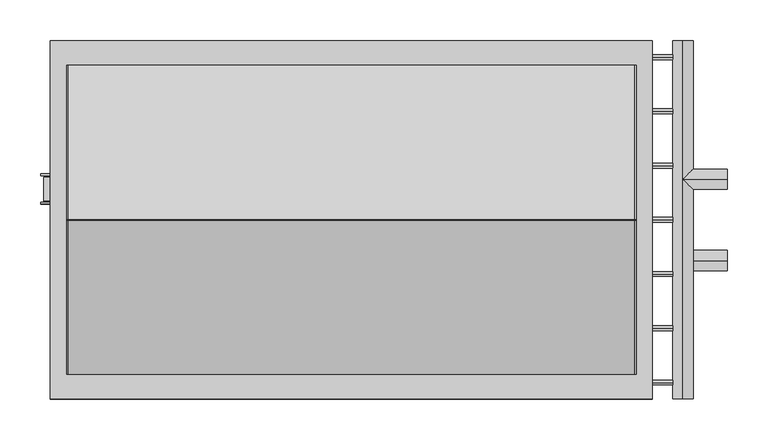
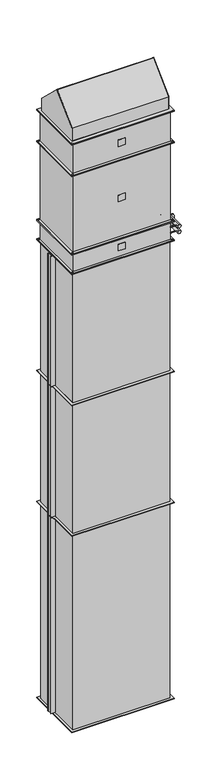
"""IFC4 building model written with IfcOpenShell, lengths in millimetres: proxy geometry, KORF_Завеса_ВодянойНагрев_PWZ_C : PWZ-C 70-40 W2."""

from ifc_helpers import new_model, si_unit, point, frame, frame_2d, origin, origin_with_axes, place, context, project, spatial, polyline, circle_curve, ellipse_curve, trimmed, segment, composite_curve, outline, extrude, source, transform, mapped, element, save
from ifc_brep_helpers import plane_surface, cylinder_surface, advanced_brep


def mechanical_equipment_6797398d(model_context):
    return source(origin(), model_context, "Body", "SolidModel", [
        extrude(outline(polyline([(25.0, -205.0), (-25.0, -205.0), (-25.0, -203.0), (25.0, -203.0), (25.0, -205.0)])), frame((0.0, 0.0, 3550.0), z_axis=(0.0, 0.0, 1.0), x_axis=(1.0, 0.0, 0.0)), (0.0, 0.0, 1.0), 50.0),
        extrude(outline(polyline([(370.0, -220.0), (-370.0, -220.0), (-370.0, 220.0), (370.0, 220.0), (370.0, -220.0)]), holes=[polyline([(350.0, -200.0), (350.0, 200.0), (-350.0, 200.0), (-350.0, -200.0), (350.0, -200.0)]), composite_curve([segment(trimmed(circle_curve(frame_2d((-360.0, -210.0)), 4.5), [point((-355.5, -210.0))], [point((-364.5, -210.0))], True, "CARTESIAN"), True, "CONTINUOUS"), segment(trimmed(circle_curve(frame_2d((-360.0, -210.0)), 4.5), [point((-364.5, -210.0))], [point((-355.5, -210.0))], True, "CARTESIAN"), True, "CONTINUOUS")], self_intersect=False), composite_curve([segment(trimmed(circle_curve(frame_2d((360.0, -210.0)), 4.5), [point((364.5, -210.0))], [point((355.5, -210.0))], True, "CARTESIAN"), True, "CONTINUOUS"), segment(trimmed(circle_curve(frame_2d((360.0, -210.0)), 4.5), [point((355.5, -210.0))], [point((364.5, -210.0))], True, "CARTESIAN"), True, "CONTINUOUS")], self_intersect=False), composite_curve([segment(trimmed(circle_curve(frame_2d((360.0, 210.0)), 4.5), [point((364.5, 210.0))], [point((355.5, 210.0))], True, "CARTESIAN"), True, "CONTINUOUS"), segment(trimmed(circle_curve(frame_2d((360.0, 210.0)), 4.5), [point((355.5, 210.0))], [point((364.5, 210.0))], True, "CARTESIAN"), True, "CONTINUOUS")], self_intersect=False), composite_curve([segment(trimmed(circle_curve(frame_2d((-360.0, 210.0)), 4.5), [point((-355.5, 210.0))], [point((-364.5, 210.0))], True, "CARTESIAN"), True, "CONTINUOUS"), segment(trimmed(circle_curve(frame_2d((-360.0, 210.0)), 4.5), [point((-364.5, 210.0))], [point((-355.5, 210.0))], True, "CARTESIAN"), True, "CONTINUOUS")], self_intersect=False)]), frame((0.0, 0.0, 3645.0), z_axis=(0.0, 0.0, 1.0), x_axis=(1.0, 0.0, 0.0)), (0.0, 0.0, 1.0), 5.0),
        extrude(outline(polyline([(370.0, -220.0), (-370.0, -220.0), (-370.0, 220.0), (370.0, 220.0), (370.0, -220.0)]), holes=[polyline([(350.0, -200.0), (350.0, 200.0), (-350.0, 200.0), (-350.0, -200.0), (350.0, -200.0)]), composite_curve([segment(trimmed(circle_curve(frame_2d((-360.0, -210.0)), 4.5), [point((-355.5, -210.0))], [point((-364.5, -210.0))], True, "CARTESIAN"), True, "CONTINUOUS"), segment(trimmed(circle_curve(frame_2d((-360.0, -210.0)), 4.5), [point((-364.5, -210.0))], [point((-355.5, -210.0))], True, "CARTESIAN"), True, "CONTINUOUS")], self_intersect=False), composite_curve([segment(trimmed(circle_curve(frame_2d((360.0, -210.0)), 4.5), [point((364.5, -210.0))], [point((355.5, -210.0))], True, "CARTESIAN"), True, "CONTINUOUS"), segment(trimmed(circle_curve(frame_2d((360.0, -210.0)), 4.5), [point((355.5, -210.0))], [point((364.5, -210.0))], True, "CARTESIAN"), True, "CONTINUOUS")], self_intersect=False), composite_curve([segment(trimmed(circle_curve(frame_2d((360.0, 210.0)), 4.5), [point((364.5, 210.0))], [point((355.5, 210.0))], True, "CARTESIAN"), True, "CONTINUOUS"), segment(trimmed(circle_curve(frame_2d((360.0, 210.0)), 4.5), [point((355.5, 210.0))], [point((364.5, 210.0))], True, "CARTESIAN"), True, "CONTINUOUS")], self_intersect=False), composite_curve([segment(trimmed(circle_curve(frame_2d((-360.0, 210.0)), 4.5), [point((-355.5, 210.0))], [point((-364.5, 210.0))], True, "CARTESIAN"), True, "CONTINUOUS"), segment(trimmed(circle_curve(frame_2d((-360.0, 210.0)), 4.5), [point((-364.5, 210.0))], [point((-355.5, 210.0))], True, "CARTESIAN"), True, "CONTINUOUS")], self_intersect=False)]), frame((0.0, 0.0, 3500.0), z_axis=(0.0, 0.0, 1.0), x_axis=(1.0, 0.0, 0.0)), (0.0, 0.0, 1.0), 5.0),
        extrude(outline(polyline([(353.0, -203.0), (-353.0, -203.0), (-353.0, 203.0), (353.0, 203.0), (353.0, -203.0)])), frame((0.0, 0.0, 3505.0), z_axis=(0.0, 0.0, 1.0), x_axis=(1.0, 0.0, 0.0)), (0.0, 0.0, 1.0), 140.0),
        advanced_brep(
        [(462.0, -50.0, 3541.0), (462.0, -50.0, 3566.0), (407.5, -50.0, 3541.0), (407.5, -50.0, 3566.0), (407.5, -220.0, 3541.0), (407.5, -220.0, 3566.0), (407.5, 220.0, 3541.0), (407.5, 220.0, 3566.0)],
        [
            (0, 1, circle_curve(frame((462.0, -50.0, 3553.5), z_axis=(1.0, 0.0, 0.0), x_axis=(0.0, 0.0, 1.0000000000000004)), 12.5)),
            (1, 0, circle_curve(frame((462.0, -50.0, 3553.5), z_axis=(1.0, 0.0, 0.0), x_axis=(0.0, 0.0, 1.0000000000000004)), 12.5)),
            (0, 2),
            (2, 3, ellipse_curve(frame((407.5, -50.0, 3553.5), z_axis=(0.7071067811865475, -0.7071067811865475, 0.0), x_axis=(0.7071067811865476, 0.7071067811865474, 0.0)), 17.6776695, 12.5)),
            (3, 1),
            (3, 2, ellipse_curve(frame((407.5, -50.0, 3553.5), z_axis=(0.7071067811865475, 0.7071067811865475, 0.0), x_axis=(0.7071067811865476, -0.7071067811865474, 0.0)), 17.6776695, 12.5)),
            (4, 5, circle_curve(frame((407.5, -220.0, 3553.5), z_axis=(0.0, -1.0, 0.0), x_axis=(0.0, 0.0, 1.0000000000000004)), 12.5)),
            (5, 4, circle_curve(frame((407.5, -220.0, 3553.5), z_axis=(0.0, -1.0, 0.0), x_axis=(0.0, 0.0, 1.0000000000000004)), 12.5)),
            (6, 7, circle_curve(frame((407.5, 220.0, 3553.5), z_axis=(0.0, 1.0, 0.0), x_axis=(0.0, 0.0, 1.0000000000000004)), 12.5)),
            (7, 6, circle_curve(frame((407.5, 220.0, 3553.5), z_axis=(0.0, 1.0, 0.0), x_axis=(0.0, 0.0, 1.0000000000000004)), 12.5)),
            (4, 2),
            (3, 5),
            (7, 3),
            (2, 6),
        ],
        [
            plane_surface(frame((462.0, -50.0, 3566.0), z_axis=(1.0, 0.0, 0.0), x_axis=(0.0, -1.0, 0.0))),
            cylinder_surface(frame((407.5, -50.0, 3553.5), z_axis=(1.0000000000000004, 0.0, 0.0), x_axis=(0.0, 0.0, 1.0000000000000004)), 12.5),
            plane_surface(frame((407.5, -220.0, 3566.0), z_axis=(0.0, -1.0, 0.0), x_axis=(-1.0, 0.0, 0.0))),
            plane_surface(frame((407.5, 220.0, 3566.0), z_axis=(0.0, 1.0, 0.0), x_axis=(1.0, 0.0, 0.0))),
            cylinder_surface(frame((407.5, 220.0, 3553.5), z_axis=(0.0, -1.0, 0.0), x_axis=(0.0, 0.0, 1.0000000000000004)), 12.5),
        ],
        [
            (0, [[1, 2]]),
            (1, [[-1, 3, 4, 5]]),
            (1, [[-2, -5, 6, -3]]),
            (2, [[7, 8]]),
            (3, [[9, 10]]),
            (4, [[-7, 11, -6, 12]]),
            (4, [[-10, 13, -4, 14]]),
            (4, [[-8, -12, -13, -9, -14, -11]]),
        ],
    ),
        advanced_brep(
        [(462.0, 50.0, 3584.0), (462.0, 50.0, 3609.0), (407.5, 50.0, 3584.0), (407.5, 50.0, 3609.0), (407.5, -220.0, 3584.0), (407.5, -220.0, 3609.0), (407.5, 220.0, 3584.0), (407.5, 220.0, 3609.0)],
        [
            (0, 1, circle_curve(frame((462.0, 50.0, 3596.5), z_axis=(1.0, 0.0, 0.0), x_axis=(0.0, 0.0, 1.0000000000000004)), 12.5)),
            (1, 0, circle_curve(frame((462.0, 50.0, 3596.5), z_axis=(1.0, 0.0, 0.0), x_axis=(0.0, 0.0, 1.0000000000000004)), 12.5)),
            (0, 2),
            (2, 3, ellipse_curve(frame((407.5, 50.0, 3596.5), z_axis=(0.7071067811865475, -0.7071067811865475, 0.0), x_axis=(0.7071067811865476, 0.7071067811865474, 0.0)), 17.6776695, 12.5)),
            (3, 1),
            (3, 2, ellipse_curve(frame((407.5, 50.0, 3596.5), z_axis=(0.7071067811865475, 0.7071067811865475, 0.0), x_axis=(0.7071067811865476, -0.7071067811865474, 0.0)), 17.6776695, 12.5)),
            (4, 5, circle_curve(frame((407.5, -220.0, 3596.5), z_axis=(0.0, -1.0, 0.0), x_axis=(0.0, 0.0, 1.0000000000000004)), 12.5)),
            (5, 4, circle_curve(frame((407.5, -220.0, 3596.5), z_axis=(0.0, -1.0, 0.0), x_axis=(0.0, 0.0, 1.0000000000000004)), 12.5)),
            (6, 7, circle_curve(frame((407.5, 220.0, 3596.5), z_axis=(0.0, 1.0, 0.0), x_axis=(0.0, 0.0, 1.0000000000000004)), 12.5)),
            (7, 6, circle_curve(frame((407.5, 220.0, 3596.5), z_axis=(0.0, 1.0, 0.0), x_axis=(0.0, 0.0, 1.0000000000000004)), 12.5)),
            (4, 2),
            (3, 5),
            (7, 3),
            (2, 6),
        ],
        [
            plane_surface(frame((462.0, -50.0, 3566.0), z_axis=(1.0, 0.0, 0.0), x_axis=(0.0, -1.0, 0.0))),
            cylinder_surface(frame((0.0, 50.0, 3596.5), z_axis=(1.0000000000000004, 0.0, 0.0), x_axis=(0.0, 0.0, 1.0000000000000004)), 12.5),
            plane_surface(frame((407.5, -220.0, 3566.0), z_axis=(0.0, -1.0, 0.0), x_axis=(-1.0, 0.0, 0.0))),
            plane_surface(frame((407.5, 220.0, 3566.0), z_axis=(0.0, 1.0, 0.0), x_axis=(1.0, 0.0, 0.0))),
            cylinder_surface(frame((407.5, 0.0, 3596.5), z_axis=(0.0, -1.0, 0.0), x_axis=(0.0, 0.0, 1.0000000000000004)), 12.5),
        ],
        [
            (0, [[1, 2]]),
            (1, [[-1, 3, 4, 5]]),
            (1, [[-2, -5, 6, -3]]),
            (2, [[7, 8]]),
            (3, [[9, 10]]),
            (4, [[-7, 11, -6, 12]]),
            (4, [[-10, 13, -4, 14]]),
            (4, [[-8, -12, -13, -9, -14, -11]]),
        ],
    ),
        extrude(outline(composite_curve([segment(trimmed(circle_curve(frame_2d((-200.0, 3553.5)), 3.0), [point((-200.0, 3550.5))], [point((-200.0, 3556.5))], False, "CARTESIAN"), True, "CONTINUOUS"), segment(trimmed(circle_curve(frame_2d((-200.0, 3553.5)), 3.0), [point((-200.0, 3556.5))], [point((-200.0, 3550.5))], False, "CARTESIAN"), True, "CONTINUOUS")], self_intersect=False)), frame((353.0, 0.0, 0.0), z_axis=(1.0, 0.0, 0.0), x_axis=(0.0, 1.0, 0.0)), (0.0, 0.0, 1.0), 54.5),
        extrude(outline(composite_curve([segment(trimmed(circle_curve(frame_2d((-133.3333333, 3553.5)), 3.0), [point((-133.3333333, 3550.5))], [point((-133.3333333, 3556.5))], False, "CARTESIAN"), True, "CONTINUOUS"), segment(trimmed(circle_curve(frame_2d((-133.3333333, 3553.5)), 3.0), [point((-133.3333333, 3556.5))], [point((-133.3333333, 3550.5))], False, "CARTESIAN"), True, "CONTINUOUS")], self_intersect=False)), frame((353.0, 0.0, 0.0), z_axis=(1.0, 0.0, 0.0), x_axis=(0.0, 1.0, 0.0)), (0.0, 0.0, 1.0), 54.5),
        extrude(outline(composite_curve([segment(trimmed(circle_curve(frame_2d((-66.6666667, 3553.5)), 3.0), [point((-66.6666667, 3550.5))], [point((-66.6666667, 3556.5))], False, "CARTESIAN"), True, "CONTINUOUS"), segment(trimmed(circle_curve(frame_2d((-66.6666667, 3553.5)), 3.0), [point((-66.6666667, 3556.5))], [point((-66.6666667, 3550.5))], False, "CARTESIAN"), True, "CONTINUOUS")], self_intersect=False)), frame((353.0, 0.0, 0.0), z_axis=(1.0, 0.0, 0.0), x_axis=(0.0, 1.0, 0.0)), (0.0, 0.0, 1.0), 54.5),
        extrude(outline(composite_curve([segment(trimmed(circle_curve(frame_2d((0.0, 3553.5)), 3.0), [point((0.0, 3550.5))], [point((0.0, 3556.5))], False, "CARTESIAN"), True, "CONTINUOUS"), segment(trimmed(circle_curve(frame_2d((0.0, 3553.5)), 3.0), [point((0.0, 3556.5))], [point((0.0, 3550.5))], False, "CARTESIAN"), True, "CONTINUOUS")], self_intersect=False)), frame((353.0, 0.0, 0.0), z_axis=(1.0, 0.0, 0.0), x_axis=(0.0, 1.0, 0.0)), (0.0, 0.0, 1.0), 54.5),
        extrude(outline(composite_curve([segment(trimmed(circle_curve(frame_2d((66.6666667, 3553.5)), 3.0), [point((66.6666667, 3550.5))], [point((66.6666667, 3556.5))], False, "CARTESIAN"), True, "CONTINUOUS"), segment(trimmed(circle_curve(frame_2d((66.6666667, 3553.5)), 3.0), [point((66.6666667, 3556.5))], [point((66.6666667, 3550.5))], False, "CARTESIAN"), True, "CONTINUOUS")], self_intersect=False)), frame((353.0, 0.0, 0.0), z_axis=(1.0, 0.0, 0.0), x_axis=(0.0, 1.0, 0.0)), (0.0, 0.0, 1.0), 54.5),
        extrude(outline(composite_curve([segment(trimmed(circle_curve(frame_2d((133.3333333, 3553.5)), 3.0), [point((133.3333333, 3550.5))], [point((133.3333333, 3556.5))], False, "CARTESIAN"), True, "CONTINUOUS"), segment(trimmed(circle_curve(frame_2d((133.3333333, 3553.5)), 3.0), [point((133.3333333, 3556.5))], [point((133.3333333, 3550.5))], False, "CARTESIAN"), True, "CONTINUOUS")], self_intersect=False)), frame((353.0, 0.0, 0.0), z_axis=(1.0, 0.0, 0.0), x_axis=(0.0, 1.0, 0.0)), (0.0, 0.0, 1.0), 54.5),
        extrude(outline(composite_curve([segment(trimmed(circle_curve(frame_2d((133.3333333, 3596.5)), 3.0), [point((133.3333333, 3593.5))], [point((133.3333333, 3599.5))], False, "CARTESIAN"), True, "CONTINUOUS"), segment(trimmed(circle_curve(frame_2d((133.3333333, 3596.5)), 3.0), [point((133.3333333, 3599.5))], [point((133.3333333, 3593.5))], False, "CARTESIAN"), True, "CONTINUOUS")], self_intersect=False)), frame((353.0, 0.0, 0.0), z_axis=(1.0, 0.0, 0.0), x_axis=(0.0, 1.0, 0.0)), (0.0, 0.0, 1.0), 54.5),
        extrude(outline(composite_curve([segment(trimmed(circle_curve(frame_2d((66.6666667, 3596.5)), 3.0), [point((66.6666667, 3593.5))], [point((66.6666667, 3599.5))], False, "CARTESIAN"), True, "CONTINUOUS"), segment(trimmed(circle_curve(frame_2d((66.6666667, 3596.5)), 3.0), [point((66.6666667, 3599.5))], [point((66.6666667, 3593.5))], False, "CARTESIAN"), True, "CONTINUOUS")], self_intersect=False)), frame((353.0, 0.0, 0.0), z_axis=(1.0, 0.0, 0.0), x_axis=(0.0, 1.0, 0.0)), (0.0, 0.0, 1.0), 54.5),
        extrude(outline(composite_curve([segment(trimmed(circle_curve(frame_2d((0.0, 3596.5)), 3.0), [point((0.0, 3593.5))], [point((0.0, 3599.5))], False, "CARTESIAN"), True, "CONTINUOUS"), segment(trimmed(circle_curve(frame_2d((0.0, 3596.5)), 3.0), [point((0.0, 3599.5))], [point((0.0, 3593.5))], False, "CARTESIAN"), True, "CONTINUOUS")], self_intersect=False)), frame((353.0, 0.0, 0.0), z_axis=(1.0, 0.0, 0.0), x_axis=(0.0, 1.0, 0.0)), (0.0, 0.0, 1.0), 54.5),
        extrude(outline(composite_curve([segment(trimmed(circle_curve(frame_2d((-66.6666667, 3596.5)), 3.0), [point((-66.6666667, 3593.5))], [point((-66.6666667, 3599.5))], False, "CARTESIAN"), True, "CONTINUOUS"), segment(trimmed(circle_curve(frame_2d((-66.6666667, 3596.5)), 3.0), [point((-66.6666667, 3599.5))], [point((-66.6666667, 3593.5))], False, "CARTESIAN"), True, "CONTINUOUS")], self_intersect=False)), frame((353.0, 0.0, 0.0), z_axis=(1.0, 0.0, 0.0), x_axis=(0.0, 1.0, 0.0)), (0.0, 0.0, 1.0), 54.5),
        extrude(outline(composite_curve([segment(trimmed(circle_curve(frame_2d((-133.3333333, 3596.5)), 3.0), [point((-133.3333333, 3593.5))], [point((-133.3333333, 3599.5))], False, "CARTESIAN"), True, "CONTINUOUS"), segment(trimmed(circle_curve(frame_2d((-133.3333333, 3596.5)), 3.0), [point((-133.3333333, 3599.5))], [point((-133.3333333, 3593.5))], False, "CARTESIAN"), True, "CONTINUOUS")], self_intersect=False)), frame((353.0, 0.0, 0.0), z_axis=(1.0, 0.0, 0.0), x_axis=(0.0, 1.0, 0.0)), (0.0, 0.0, 1.0), 54.5),
        extrude(outline(composite_curve([segment(trimmed(circle_curve(frame_2d((-200.0, 3596.5)), 3.0), [point((-200.0, 3593.5))], [point((-200.0, 3599.5))], False, "CARTESIAN"), True, "CONTINUOUS"), segment(trimmed(circle_curve(frame_2d((-200.0, 3596.5)), 3.0), [point((-200.0, 3599.5))], [point((-200.0, 3593.5))], False, "CARTESIAN"), True, "CONTINUOUS")], self_intersect=False)), frame((353.0, 0.0, 0.0), z_axis=(1.0, 0.0, 0.0), x_axis=(0.0, 1.0, 0.0)), (0.0, 0.0, 1.0), 54.5),
        extrude(outline(composite_curve([segment(trimmed(circle_curve(frame_2d((200.0, 3553.5)), 3.0), [point((200.0, 3550.5))], [point((200.0, 3556.5))], False, "CARTESIAN"), True, "CONTINUOUS"), segment(trimmed(circle_curve(frame_2d((200.0, 3553.5)), 3.0), [point((200.0, 3556.5))], [point((200.0, 3550.5))], False, "CARTESIAN"), True, "CONTINUOUS")], self_intersect=False)), frame((353.0, 0.0, 0.0), z_axis=(1.0, 0.0, 0.0), x_axis=(0.0, 1.0, 0.0)), (0.0, 0.0, 1.0), 54.5),
        extrude(outline(composite_curve([segment(trimmed(circle_curve(frame_2d((200.0, 3596.5)), 3.0), [point((200.0, 3593.5))], [point((200.0, 3599.5))], False, "CARTESIAN"), True, "CONTINUOUS"), segment(trimmed(circle_curve(frame_2d((200.0, 3596.5)), 3.0), [point((200.0, 3599.5))], [point((200.0, 3593.5))], False, "CARTESIAN"), True, "CONTINUOUS")], self_intersect=False)), frame((353.0, 0.0, 0.0), z_axis=(1.0, 0.0, 0.0), x_axis=(0.0, 1.0, 0.0)), (0.0, 0.0, 1.0), 54.5),
        extrude(outline(polyline([(25.0, -205.0), (-25.0, -205.0), (-25.0, -203.0), (25.0, -203.0), (25.0, -205.0)])), frame((0.0, 0.0, 4346.0), z_axis=(0.0, 0.0, 1.0), x_axis=(1.0, 0.0, 0.0)), (0.0, 0.0, 1.0), 50.0),
        extrude(outline(polyline([(-370.0, -220.0), (-370.0, 220.0), (370.0, 220.0), (370.0, -220.0), (-370.0, -220.0)]), holes=[polyline([(-350.0, -200.0), (350.0, -200.0), (350.0, 200.0), (-350.0, 200.0), (-350.0, -200.0)]), composite_curve([segment(trimmed(circle_curve(frame_2d((360.0, -210.0)), 4.5), [point((364.5, -210.0))], [point((355.5, -210.0))], True, "CARTESIAN"), True, "CONTINUOUS"), segment(trimmed(circle_curve(frame_2d((360.0, -210.0)), 4.5), [point((355.5, -210.0))], [point((364.5, -210.0))], True, "CARTESIAN"), True, "CONTINUOUS")], self_intersect=False), composite_curve([segment(trimmed(circle_curve(frame_2d((-360.0, -210.0)), 4.5), [point((-355.5, -210.0))], [point((-364.5, -210.0))], True, "CARTESIAN"), True, "CONTINUOUS"), segment(trimmed(circle_curve(frame_2d((-360.0, -210.0)), 4.5), [point((-364.5, -210.0))], [point((-355.5, -210.0))], True, "CARTESIAN"), True, "CONTINUOUS")], self_intersect=False), composite_curve([segment(trimmed(circle_curve(frame_2d((-360.0, 210.0)), 4.5), [point((-355.5, 210.0))], [point((-364.5, 210.0))], True, "CARTESIAN"), True, "CONTINUOUS"), segment(trimmed(circle_curve(frame_2d((-360.0, 210.0)), 4.5), [point((-364.5, 210.0))], [point((-355.5, 210.0))], True, "CARTESIAN"), True, "CONTINUOUS")], self_intersect=False), composite_curve([segment(trimmed(circle_curve(frame_2d((360.0, 210.0)), 4.5), [point((364.5, 210.0))], [point((355.5, 210.0))], True, "CARTESIAN"), True, "CONTINUOUS"), segment(trimmed(circle_curve(frame_2d((360.0, 210.0)), 4.5), [point((355.5, 210.0))], [point((364.5, 210.0))], True, "CARTESIAN"), True, "CONTINUOUS")], self_intersect=False)]), frame((0.0, 0.0, 4250.0), z_axis=(0.0, 0.0, 1.0), x_axis=(1.0, 0.0, 0.0)), (0.0, 0.0, 1.0), 5.0),
        extrude(outline(polyline([(-370.0, -220.0), (-370.0, 220.0), (370.0, 220.0), (370.0, -220.0), (-370.0, -220.0)]), holes=[polyline([(-350.0, -200.0), (350.0, -200.0), (350.0, 200.0), (-350.0, 200.0), (-350.0, -200.0)]), composite_curve([segment(trimmed(circle_curve(frame_2d((360.0, -210.0)), 4.5), [point((364.5, -210.0))], [point((355.5, -210.0))], True, "CARTESIAN"), True, "CONTINUOUS"), segment(trimmed(circle_curve(frame_2d((360.0, -210.0)), 4.5), [point((355.5, -210.0))], [point((364.5, -210.0))], True, "CARTESIAN"), True, "CONTINUOUS")], self_intersect=False), composite_curve([segment(trimmed(circle_curve(frame_2d((-360.0, -210.0)), 4.5), [point((-355.5, -210.0))], [point((-364.5, -210.0))], True, "CARTESIAN"), True, "CONTINUOUS"), segment(trimmed(circle_curve(frame_2d((-360.0, -210.0)), 4.5), [point((-364.5, -210.0))], [point((-355.5, -210.0))], True, "CARTESIAN"), True, "CONTINUOUS")], self_intersect=False), composite_curve([segment(trimmed(circle_curve(frame_2d((-360.0, 210.0)), 4.5), [point((-355.5, 210.0))], [point((-364.5, 210.0))], True, "CARTESIAN"), True, "CONTINUOUS"), segment(trimmed(circle_curve(frame_2d((-360.0, 210.0)), 4.5), [point((-364.5, 210.0))], [point((-355.5, 210.0))], True, "CARTESIAN"), True, "CONTINUOUS")], self_intersect=False), composite_curve([segment(trimmed(circle_curve(frame_2d((360.0, 210.0)), 4.5), [point((364.5, 210.0))], [point((355.5, 210.0))], True, "CARTESIAN"), True, "CONTINUOUS"), segment(trimmed(circle_curve(frame_2d((360.0, 210.0)), 4.5), [point((355.5, 210.0))], [point((364.5, 210.0))], True, "CARTESIAN"), True, "CONTINUOUS")], self_intersect=False)]), frame((0.0, 0.0, 4487.0), z_axis=(0.0, 0.0, 1.0), x_axis=(1.0, 0.0, 0.0)), (0.0, 0.0, 1.0), 5.0),
        extrude(outline(polyline([(-353.0, -203.0), (-353.0, 203.0), (353.0, 203.0), (353.0, -203.0), (-353.0, -203.0)])), frame((0.0, 0.0, 4255.0), z_axis=(0.0, 0.0, 1.0), x_axis=(1.0, 0.0, 0.0)), (0.0, 0.0, 1.0), 232.0),
        extrude(outline(polyline([(25.0, -205.0), (-25.0, -205.0), (-25.0, -203.0), (25.0, -203.0), (25.0, -205.0)])), frame((0.0, 0.0, 3925.0), z_axis=(0.0, 0.0, 1.0), x_axis=(1.0, 0.0, 0.0)), (0.0, 0.0, 1.0), 50.0),
        extrude(outline(polyline([(370.0, -220.0), (-370.0, -220.0), (-370.0, 220.0), (370.0, 220.0), (370.0, -220.0)]), holes=[polyline([(350.0, -200.0), (350.0, 200.0), (-350.0, 200.0), (-350.0, -200.0), (350.0, -200.0)]), composite_curve([segment(trimmed(circle_curve(frame_2d((-360.0, -210.0)), 4.5), [point((-355.5, -210.0))], [point((-364.5, -210.0))], True, "CARTESIAN"), True, "CONTINUOUS"), segment(trimmed(circle_curve(frame_2d((-360.0, -210.0)), 4.5), [point((-364.5, -210.0))], [point((-355.5, -210.0))], True, "CARTESIAN"), True, "CONTINUOUS")], self_intersect=False), composite_curve([segment(trimmed(circle_curve(frame_2d((360.0, -210.0)), 4.5), [point((364.5, -210.0))], [point((355.5, -210.0))], True, "CARTESIAN"), True, "CONTINUOUS"), segment(trimmed(circle_curve(frame_2d((360.0, -210.0)), 4.5), [point((355.5, -210.0))], [point((364.5, -210.0))], True, "CARTESIAN"), True, "CONTINUOUS")], self_intersect=False), composite_curve([segment(trimmed(circle_curve(frame_2d((360.0, 210.0)), 4.5), [point((364.5, 210.0))], [point((355.5, 210.0))], True, "CARTESIAN"), True, "CONTINUOUS"), segment(trimmed(circle_curve(frame_2d((360.0, 210.0)), 4.5), [point((355.5, 210.0))], [point((364.5, 210.0))], True, "CARTESIAN"), True, "CONTINUOUS")], self_intersect=False), composite_curve([segment(trimmed(circle_curve(frame_2d((-360.0, 210.0)), 4.5), [point((-355.5, 210.0))], [point((-364.5, 210.0))], True, "CARTESIAN"), True, "CONTINUOUS"), segment(trimmed(circle_curve(frame_2d((-360.0, 210.0)), 4.5), [point((-364.5, 210.0))], [point((-355.5, 210.0))], True, "CARTESIAN"), True, "CONTINUOUS")], self_intersect=False)]), frame((0.0, 0.0, 4245.0), z_axis=(0.0, 0.0, 1.0), x_axis=(1.0, 0.0, 0.0)), (0.0, 0.0, 1.0), 5.0),
        extrude(outline(polyline([(370.0, -220.0), (-370.0, -220.0), (-370.0, 220.0), (370.0, 220.0), (370.0, -220.0)]), holes=[polyline([(350.0, -200.0), (350.0, 200.0), (-350.0, 200.0), (-350.0, -200.0), (350.0, -200.0)]), composite_curve([segment(trimmed(circle_curve(frame_2d((-360.0, -210.0)), 4.5), [point((-355.5, -210.0))], [point((-364.5, -210.0))], True, "CARTESIAN"), True, "CONTINUOUS"), segment(trimmed(circle_curve(frame_2d((-360.0, -210.0)), 4.5), [point((-364.5, -210.0))], [point((-355.5, -210.0))], True, "CARTESIAN"), True, "CONTINUOUS")], self_intersect=False), composite_curve([segment(trimmed(circle_curve(frame_2d((360.0, -210.0)), 4.5), [point((364.5, -210.0))], [point((355.5, -210.0))], True, "CARTESIAN"), True, "CONTINUOUS"), segment(trimmed(circle_curve(frame_2d((360.0, -210.0)), 4.5), [point((355.5, -210.0))], [point((364.5, -210.0))], True, "CARTESIAN"), True, "CONTINUOUS")], self_intersect=False), composite_curve([segment(trimmed(circle_curve(frame_2d((360.0, 210.0)), 4.5), [point((364.5, 210.0))], [point((355.5, 210.0))], True, "CARTESIAN"), True, "CONTINUOUS"), segment(trimmed(circle_curve(frame_2d((360.0, 210.0)), 4.5), [point((355.5, 210.0))], [point((364.5, 210.0))], True, "CARTESIAN"), True, "CONTINUOUS")], self_intersect=False), composite_curve([segment(trimmed(circle_curve(frame_2d((-360.0, 210.0)), 4.5), [point((-355.5, 210.0))], [point((-364.5, 210.0))], True, "CARTESIAN"), True, "CONTINUOUS"), segment(trimmed(circle_curve(frame_2d((-360.0, 210.0)), 4.5), [point((-364.5, 210.0))], [point((-355.5, 210.0))], True, "CARTESIAN"), True, "CONTINUOUS")], self_intersect=False)]), frame((0.0, 0.0, 3650.0), z_axis=(0.0, 0.0, 1.0), x_axis=(1.0, 0.0, 0.0)), (0.0, 0.0, 1.0), 5.0),
        extrude(outline(polyline([(353.0, -203.0), (-353.0, -203.0), (-353.0, 203.0), (353.0, 203.0), (353.0, -203.0)])), frame((0.0, 0.0, 3655.0), z_axis=(0.0, 0.0, 1.0), x_axis=(1.0, 0.0, 0.0)), (0.0, 0.0, 1.0), 590.0),
        extrude(outline(polyline([(350.0, 200.0), (350.0, -200.0), (-350.0, -200.0), (-350.0, 200.0), (350.0, 200.0)])), frame((0.0, 0.0, 2500.0), z_axis=(0.0, 0.0, 1.0), x_axis=(1.0, 0.0, 0.0)), (0.0, 0.0, 1.0), 1000.0),
        extrude(outline(polyline([(-378.0, 52.5), (-350.0, 52.5), (-350.0, 23.5), (-378.0, 23.5), (-378.0, 52.5)])), frame((0.0, 0.0, 2502.0), z_axis=(0.0, 0.0, 1.0), x_axis=(1.0, 0.0, 0.0)), (0.0, 0.0, 1.0), 996.0),
        extrude(outline(polyline([(-382.0, 56.5), (-350.0, 56.5), (-350.0, 54.5), (-382.0, 54.5), (-382.0, 56.5)])), frame((0.0, 0.0, 2502.0), z_axis=(0.0, 0.0, 1.0), x_axis=(1.0, 0.0, 0.0)), (0.0, 0.0, 1.0), 996.0),
        extrude(outline(polyline([(-382.0, 19.5), (-382.0, 21.5), (-350.0, 21.5), (-350.0, 19.5), (-382.0, 19.5)])), frame((0.0, 0.0, 2502.0), z_axis=(0.0, 0.0, 1.0), x_axis=(1.0, 0.0, 0.0)), (0.0, 0.0, 1.0), 996.0),
        extrude(outline(polyline([(370.0, 220.0), (370.0, -220.0), (-370.0, -220.0), (-370.0, 220.0), (370.0, 220.0)]), holes=[polyline([(350.0, 200.0), (-350.0, 200.0), (-350.0, -200.0), (350.0, -200.0), (350.0, 200.0)])]), frame((0.0, 0.0, 3498.0), z_axis=(0.0, 0.0, 1.0), x_axis=(1.0, 0.0, 0.0)), (0.0, 0.0, 1.0), 2.0),
        extrude(outline(polyline([(370.0, 220.0), (370.0, -220.0), (-370.0, -220.0), (-370.0, 220.0), (370.0, 220.0)]), holes=[polyline([(350.0, 200.0), (-350.0, 200.0), (-350.0, -200.0), (350.0, -200.0), (350.0, 200.0)])]), frame((0.0, 0.0, 2500.0), z_axis=(0.0, 0.0, 1.0), x_axis=(1.0, 0.0, 0.0)), (0.0, 0.0, 1.0), 2.0),
        extrude(outline(polyline([(350.0, 200.0), (350.0, -200.0), (-350.0, -200.0), (-350.0, 200.0), (350.0, 200.0)])), frame((0.0, 0.0, 1500.0), z_axis=(0.0, 0.0, 1.0), x_axis=(1.0, 0.0, 0.0)), (0.0, 0.0, 1.0), 1000.0),
        extrude(outline(polyline([(-378.0, 52.5), (-350.0, 52.5), (-350.0, 23.5), (-378.0, 23.5), (-378.0, 52.5)])), frame((0.0, 0.0, 1502.0), z_axis=(0.0, 0.0, 1.0), x_axis=(1.0, 0.0, 0.0)), (0.0, 0.0, 1.0), 996.0),
        extrude(outline(polyline([(-382.0, 56.5), (-350.0, 56.5), (-350.0, 54.5), (-382.0, 54.5), (-382.0, 56.5)])), frame((0.0, 0.0, 1502.0), z_axis=(0.0, 0.0, 1.0), x_axis=(1.0, 0.0, 0.0)), (0.0, 0.0, 1.0), 996.0),
        extrude(outline(polyline([(-382.0, 19.5), (-382.0, 21.5), (-350.0, 21.5), (-350.0, 19.5), (-382.0, 19.5)])), frame((0.0, 0.0, 1502.0), z_axis=(0.0, 0.0, 1.0), x_axis=(1.0, 0.0, 0.0)), (0.0, 0.0, 1.0), 996.0),
        extrude(outline(polyline([(370.0, 220.0), (370.0, -220.0), (-370.0, -220.0), (-370.0, 220.0), (370.0, 220.0)]), holes=[polyline([(350.0, 200.0), (-350.0, 200.0), (-350.0, -200.0), (350.0, -200.0), (350.0, 200.0)])]), frame((0.0, 0.0, 2498.0), z_axis=(0.0, 0.0, 1.0), x_axis=(1.0, 0.0, 0.0)), (0.0, 0.0, 1.0), 2.0),
        extrude(outline(polyline([(370.0, 220.0), (370.0, -220.0), (-370.0, -220.0), (-370.0, 220.0), (370.0, 220.0)]), holes=[polyline([(350.0, 200.0), (-350.0, 200.0), (-350.0, -200.0), (350.0, -200.0), (350.0, 200.0)])]), frame((0.0, 0.0, 1500.0), z_axis=(0.0, 0.0, 1.0), x_axis=(1.0, 0.0, 0.0)), (0.0, 0.0, 1.0), 2.0),
        extrude(outline(polyline([(350.0, 200.0), (350.0, -200.0), (-350.0, -200.0), (-350.0, 200.0), (350.0, 200.0)])), origin_with_axes(), (0.0, 0.0, 1.0), 1500.0),
        extrude(outline(polyline([(-378.0, 52.5), (-350.0, 52.5), (-350.0, 23.5), (-378.0, 23.5), (-378.0, 52.5)])), frame((0.0, 0.0, 2.0), z_axis=(0.0, 0.0, 1.0), x_axis=(1.0, 0.0, 0.0)), (0.0, 0.0, 1.0), 1496.0),
        extrude(outline(polyline([(-382.0, 56.5), (-350.0, 56.5), (-350.0, 54.5), (-382.0, 54.5), (-382.0, 56.5)])), frame((0.0, 0.0, 2.0), z_axis=(0.0, 0.0, 1.0), x_axis=(1.0, 0.0, 0.0)), (0.0, 0.0, 1.0), 1496.0),
        extrude(outline(polyline([(-382.0, 19.5), (-382.0, 21.5), (-350.0, 21.5), (-350.0, 19.5), (-382.0, 19.5)])), frame((0.0, 0.0, 2.0), z_axis=(0.0, 0.0, 1.0), x_axis=(1.0, 0.0, 0.0)), (0.0, 0.0, 1.0), 1496.0),
        extrude(outline(polyline([(370.0, 220.0), (370.0, -220.0), (-370.0, -220.0), (-370.0, 220.0), (370.0, 220.0)]), holes=[polyline([(350.0, 200.0), (-350.0, 200.0), (-350.0, -200.0), (350.0, -200.0), (350.0, 200.0)])]), frame((0.0, 0.0, 1498.0), z_axis=(0.0, 0.0, 1.0), x_axis=(1.0, 0.0, 0.0)), (0.0, 0.0, 1.0), 2.0),
        extrude(outline(polyline([(370.0, 220.0), (370.0, -220.0), (-370.0, -220.0), (-370.0, 220.0), (370.0, 220.0)]), holes=[polyline([(350.0, 200.0), (-350.0, 200.0), (-350.0, -200.0), (350.0, -200.0), (350.0, 200.0)])]), origin_with_axes(), (0.0, 0.0, 1.0), 2.0),
        extrude(outline(composite_curve([segment(polyline([(190.0, 4589.1428571), (190.0, 4494.0), (-190.0, 4494.0), (-190.0, 4589.1428571), (-0.6395979, 4771.3786763)]), True, "CONTINUOUS"), segment(trimmed(circle_curve(frame_2d((0.0, 4770.7202668)), 0.9179263), [point((-0.6395979, 4771.3786763))], [point((0.6395979, 4771.3786763))], False, "CARTESIAN"), True, "CONTINUOUS"), segment(polyline([(0.6395979, 4771.3786763), (190.0, 4589.1428571)]), True, "CONTINUOUS")], self_intersect=False)), frame((348.0, 0.0, 0.0), z_axis=(1.0, 0.0, 0.0), x_axis=(0.0, 1.0, 0.0)), (0.0, 0.0, 1.0), 2.0),
        extrude(outline(composite_curve([segment(polyline([(190.0, 4589.1428571), (190.0, 4494.0), (-190.0, 4494.0), (-190.0, 4589.1428571), (-0.6395979, 4771.3786763)]), True, "CONTINUOUS"), segment(trimmed(circle_curve(frame_2d((0.0, 4770.7202668)), 0.9179263), [point((-0.6395979, 4771.3786763))], [point((0.6395979, 4771.3786763))], False, "CARTESIAN"), True, "CONTINUOUS"), segment(polyline([(0.6395979, 4771.3786763), (190.0, 4589.1428571)]), True, "CONTINUOUS")], self_intersect=False)), frame((-348.0, 0.0, 0.0), z_axis=(1.0, 0.0, 0.0), x_axis=(0.0, 1.0, 0.0)), (0.0, 0.0, 1.0), 696.0),
        extrude(outline(composite_curve([segment(polyline([(190.0, 4589.1428571), (190.0, 4494.0), (-190.0, 4494.0), (-190.0, 4589.1428571), (-0.6395979, 4771.3786763)]), True, "CONTINUOUS"), segment(trimmed(circle_curve(frame_2d((0.0, 4770.7202668)), 0.9179263), [point((-0.6395979, 4771.3786763))], [point((0.6395979, 4771.3786763))], False, "CARTESIAN"), True, "CONTINUOUS"), segment(polyline([(0.6395979, 4771.3786763), (190.0, 4589.1428571)]), True, "CONTINUOUS")], self_intersect=False)), frame((-350.0, 0.0, 0.0), z_axis=(1.0, 0.0, 0.0), x_axis=(0.0, 1.0, 0.0)), (0.0, 0.0, 1.0), 2.0),
        extrude(outline(polyline([(370.0, 220.0), (370.0, -220.0), (-370.0, -220.0), (-370.0, 220.0), (370.0, 220.0)]), holes=[polyline([(-350.0, 190.0), (-350.0, -190.0), (350.0, -190.0), (350.0, 190.0), (-350.0, 190.0)])]), frame((0.0, 0.0, 4492.0), z_axis=(0.0, 0.0, 1.0), x_axis=(1.0, 0.0, 0.0)), (0.0, 0.0, 1.0), 2.0),
    ])


if __name__ == "__main__":
    model = new_model("IFC4")
    model_context = context("Model", 3, world=origin())
    ifc_project = project(units=[si_unit("LENGTHUNIT", "METRE", prefix="MILLI")], contexts=[model_context])
    site = spatial("IfcSite", under=ifc_project)
    building = spatial("IfcBuilding", under=site)
    placement = place(None, origin())
    mechanical_equipment_shape = mechanical_equipment_6797398d(model_context)
    element("IfcBuildingElementProxy", 1, Name="KORF_Завеса_ВодянойНагрев_PWZ_C : PWZ-C 70-40 W2", ObjectType="KORF_Завеса_ВодянойНагрев_PWZ_C : PWZ-C 70-40 W2", at=placement, inside=building, context=model_context, shape_type="MappedRepresentation", body=[
        mapped(mechanical_equipment_shape, transform((0.0, 0.0, 0.0), x_axis=(1.0, 0.0, 0.0), y_axis=(0.0, 1.0, 0.0), z_axis=(0.0, 0.0, 1.0))),
    ])
    save(model, "model.ifc")
